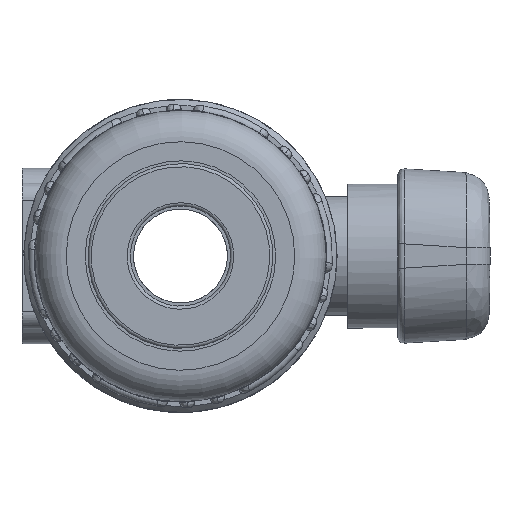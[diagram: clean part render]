
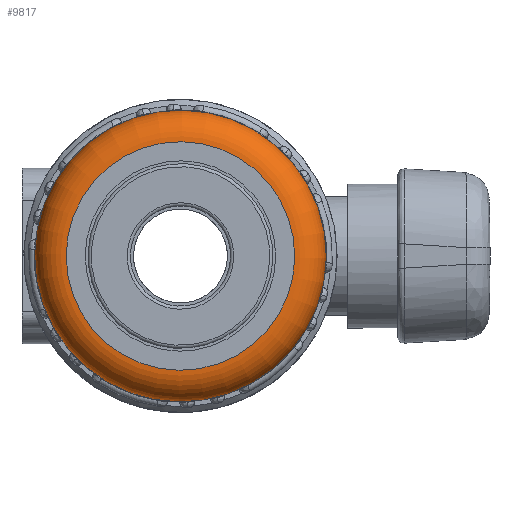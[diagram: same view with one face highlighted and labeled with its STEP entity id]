
A CAD part, front view. The second image highlights one B-rep face of the part: STEP entity #9817.
In plain terms, the highlighted toroidal (fillet/blend) face has major radius 18.25 mm and minor radius 5 mm.
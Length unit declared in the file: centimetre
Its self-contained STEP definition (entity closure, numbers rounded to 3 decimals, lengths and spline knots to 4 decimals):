
#59=TOROIDAL_SURFACE('',#10497,1.825,0.5);
#1927=FACE_BOUND('',#2771,.T.);
#2192=FACE_OUTER_BOUND('',#2770,.T.);
#2770=EDGE_LOOP('',(#6961));
#2771=EDGE_LOOP('',(#6962));
#3385=CIRCLE('',#10495,1.825);
#3387=CIRCLE('',#10498,2.325);
#4009=VERTEX_POINT('',#36878);
#4011=VERTEX_POINT('',#36883);
#5118=EDGE_CURVE('',#4009,#4009,#3385,.T.);
#5120=EDGE_CURVE('',#4011,#4011,#3387,.T.);
#6961=ORIENTED_EDGE('',*,*,#5120,.F.);
#6962=ORIENTED_EDGE('',*,*,#5118,.T.);
#9817=ADVANCED_FACE('',(#2192,#1927),#59,.T.);
#10495=AXIS2_PLACEMENT_3D('',#36879,#11912,#11913);
#10497=AXIS2_PLACEMENT_3D('',#36882,#11916,#11917);
#10498=AXIS2_PLACEMENT_3D('',#36884,#11918,#11919);
#11912=DIRECTION('center_axis',(0.,1.,0.));
#11913=DIRECTION('ref_axis',(-0.354,0.,-0.935));
#11916=DIRECTION('center_axis',(0.,1.,0.));
#11917=DIRECTION('ref_axis',(0.935,0.,-0.354));
#11918=DIRECTION('center_axis',(0.,1.,0.));
#11919=DIRECTION('ref_axis',(-0.354,0.,-0.935));
#36878=CARTESIAN_POINT('',(0.646,-3.16,1.7069));
#36879=CARTESIAN_POINT('Origin',(0.,-3.16,0.));
#36882=CARTESIAN_POINT('Origin',(0.,-2.66,0.));
#36883=CARTESIAN_POINT('',(0.8229,-2.66,2.1745));
#36884=CARTESIAN_POINT('Origin',(0.,-2.66,0.));
